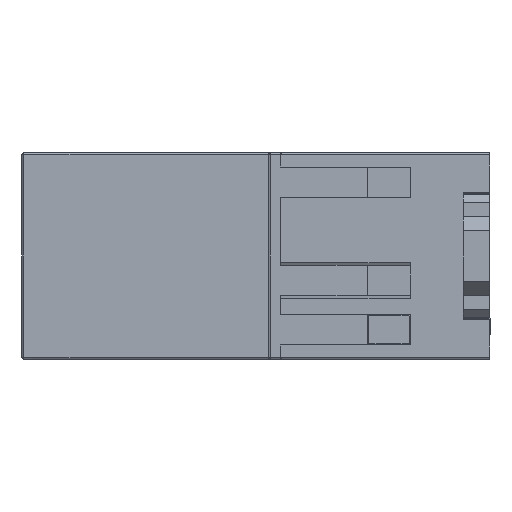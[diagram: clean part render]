
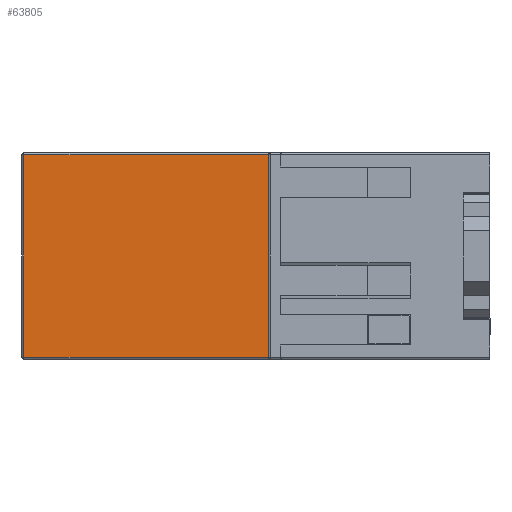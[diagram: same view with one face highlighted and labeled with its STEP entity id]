
A CAD part, left-side view. The second image highlights one B-rep face of the part: STEP entity #63805.
In plain terms, the highlighted planar face has unit normal (-1, 0, 0).
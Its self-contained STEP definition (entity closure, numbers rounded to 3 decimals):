
#236 = VERTEX_POINT ( 'NONE', #55453 ) ;
#824 = ORIENTED_EDGE ( 'NONE', *, *, #63373, .F. ) ;
#1528 = VERTEX_POINT ( 'NONE', #39609 ) ;
#1583 = DIRECTION ( 'NONE',  ( 0., 1., 0. ) ) ;
#1645 = CARTESIAN_POINT ( 'NONE',  ( -28.15, 64.471, 13.2 ) ) ;
#2405 = EDGE_CURVE ( 'NONE', #15722, #49231, #40723, .T. ) ;
#5317 = EDGE_CURVE ( 'NONE', #50097, #11340, #40833, .T. ) ;
#5808 = EDGE_CURVE ( 'NONE', #20569, #32461, #7523, .T. ) ;
#6234 = CARTESIAN_POINT ( 'NONE',  ( -28.15, 64.471, -13.2 ) ) ;
#7523 = LINE ( 'NONE', #24293, #33730 ) ;
#8137 = LINE ( 'NONE', #66205, #64059 ) ;
#8474 = AXIS2_PLACEMENT_3D ( 'NONE', #45935, #12471, #51564 ) ;
#9337 = VECTOR ( 'NONE', #63175, 1000. ) ;
#9400 = VERTEX_POINT ( 'NONE', #6234 ) ;
#9870 = EDGE_CURVE ( 'NONE', #11340, #9400, #8137, .T. ) ;
#11135 = CARTESIAN_POINT ( 'NONE',  ( -28.15, 25.821, 10.95 ) ) ;
#11340 = VERTEX_POINT ( 'NONE', #13310 ) ;
#11724 = CIRCLE ( 'NONE', #8474, 0.25 ) ;
#12471 = DIRECTION ( 'NONE',  ( 1., 0., 0. ) ) ;
#13310 = CARTESIAN_POINT ( 'NONE',  ( -28.15, 64.471, 13.2 ) ) ;
#15098 = ORIENTED_EDGE ( 'NONE', *, *, #39194, .F. ) ;
#15722 = VERTEX_POINT ( 'NONE', #32482 ) ;
#17427 = VECTOR ( 'NONE', #70993, 1000. ) ;
#17932 = LINE ( 'NONE', #55635, #45891 ) ;
#19818 = DIRECTION ( 'NONE',  ( 0., 0., -1. ) ) ;
#20569 = VERTEX_POINT ( 'NONE', #11135 ) ;
#21644 = LINE ( 'NONE', #58013, #49606 ) ;
#24293 = CARTESIAN_POINT ( 'NONE',  ( -28.15, 32.621, 10.95 ) ) ;
#24680 = LINE ( 'NONE', #47679, #50896 ) ;
#25560 = EDGE_CURVE ( 'NONE', #9400, #1528, #61992, .T. ) ;
#26132 = CARTESIAN_POINT ( 'NONE',  ( -28.15, 25.821, -13.2 ) ) ;
#26516 = DIRECTION ( 'NONE',  ( 1., 0., 0. ) ) ;
#32461 = VERTEX_POINT ( 'NONE', #41695 ) ;
#32482 = CARTESIAN_POINT ( 'NONE',  ( -28.15, 32.371, -10.95 ) ) ;
#32914 = FACE_OUTER_BOUND ( 'NONE', #67178, .T. ) ;
#33730 = VECTOR ( 'NONE', #41163, 1000. ) ;
#35060 = DIRECTION ( 'NONE',  ( 1., 0., 0. ) ) ;
#39194 = EDGE_CURVE ( 'NONE', #236, #1528, #24680, .T. ) ;
#39595 = CARTESIAN_POINT ( 'NONE',  ( -28.15, 32.621, -10.7 ) ) ;
#39609 = CARTESIAN_POINT ( 'NONE',  ( -28.15, 25.821, -13.2 ) ) ;
#40429 = PLANE ( 'NONE',  #51276 ) ;
#40723 = CIRCLE ( 'NONE', #69237, 0.25 ) ;
#40833 = LINE ( 'NONE', #1645, #9337 ) ;
#41163 = DIRECTION ( 'NONE',  ( 0., 1., 0. ) ) ;
#41695 = CARTESIAN_POINT ( 'NONE',  ( -28.15, 32.371, 10.95 ) ) ;
#42303 = VERTEX_POINT ( 'NONE', #45697 ) ;
#43465 = EDGE_CURVE ( 'NONE', #42303, #32461, #11724, .T. ) ;
#45697 = CARTESIAN_POINT ( 'NONE',  ( -28.15, 32.621, 10.7 ) ) ;
#45891 = VECTOR ( 'NONE', #61260, 1000. ) ;
#45935 = CARTESIAN_POINT ( 'NONE',  ( -28.15, 32.371, 10.7 ) ) ;
#47679 = CARTESIAN_POINT ( 'NONE',  ( -28.15, 25.821, -10.95 ) ) ;
#48535 = ORIENTED_EDGE ( 'NONE', *, *, #2405, .T. ) ;
#49231 = VERTEX_POINT ( 'NONE', #39595 ) ;
#49606 = VECTOR ( 'NONE', #63643, 1000. ) ;
#50097 = VERTEX_POINT ( 'NONE', #52899 ) ;
#50896 = VECTOR ( 'NONE', #19818, 1000. ) ;
#51276 = AXIS2_PLACEMENT_3D ( 'NONE', #68466, #35060, #1583 ) ;
#51564 = DIRECTION ( 'NONE',  ( 0., 1., 0. ) ) ;
#52899 = CARTESIAN_POINT ( 'NONE',  ( -28.15, 25.821, 13.2 ) ) ;
#53426 = VECTOR ( 'NONE', #64585, 1000. ) ;
#54701 = ORIENTED_EDGE ( 'NONE', *, *, #5317, .T. ) ;
#54989 = EDGE_CURVE ( 'NONE', #236, #15722, #68255, .T. ) ;
#55453 = CARTESIAN_POINT ( 'NONE',  ( -28.15, 25.821, -10.95 ) ) ;
#55635 = CARTESIAN_POINT ( 'NONE',  ( -28.15, 25.821, 10.95 ) ) ;
#58013 = CARTESIAN_POINT ( 'NONE',  ( -28.15, 32.621, 13.45 ) ) ;
#58384 = ORIENTED_EDGE ( 'NONE', *, *, #5808, .F. ) ;
#58974 = CARTESIAN_POINT ( 'NONE',  ( -28.15, 32.621, -10.95 ) ) ;
#59955 = CARTESIAN_POINT ( 'NONE',  ( -28.15, 32.371, -10.7 ) ) ;
#61260 = DIRECTION ( 'NONE',  ( 0., 0., 1. ) ) ;
#61992 = LINE ( 'NONE', #26132, #17427 ) ;
#63175 = DIRECTION ( 'NONE',  ( 0., 1., 0. ) ) ;
#63373 = EDGE_CURVE ( 'NONE', #42303, #49231, #21644, .T. ) ;
#63643 = DIRECTION ( 'NONE',  ( 0., 0., -1. ) ) ;
#63805 = ADVANCED_FACE ( 'NONE', ( #32914 ), #40429, .F. ) ;
#64059 = VECTOR ( 'NONE', #71796, 1000. ) ;
#64585 = DIRECTION ( 'NONE',  ( 0., 1., 0. ) ) ;
#65551 = ORIENTED_EDGE ( 'NONE', *, *, #69211, .T. ) ;
#65569 = DIRECTION ( 'NONE',  ( 0., 1., 0. ) ) ;
#66205 = CARTESIAN_POINT ( 'NONE',  ( -28.15, 64.471, 13.45 ) ) ;
#66314 = ORIENTED_EDGE ( 'NONE', *, *, #54989, .T. ) ;
#67178 = EDGE_LOOP ( 'NONE', ( #65551, #54701, #69050, #70163, #15098, #66314, #48535, #824, #72223, #58384 ) ) ;
#68255 = LINE ( 'NONE', #58974, #53426 ) ;
#68466 = CARTESIAN_POINT ( 'NONE',  ( -28.15, 64.721, 13.45 ) ) ;
#69050 = ORIENTED_EDGE ( 'NONE', *, *, #9870, .T. ) ;
#69211 = EDGE_CURVE ( 'NONE', #20569, #50097, #17932, .T. ) ;
#69237 = AXIS2_PLACEMENT_3D ( 'NONE', #59955, #26516, #65569 ) ;
#70163 = ORIENTED_EDGE ( 'NONE', *, *, #25560, .T. ) ;
#70993 = DIRECTION ( 'NONE',  ( 0., -1., 0. ) ) ;
#71796 = DIRECTION ( 'NONE',  ( 0., 0., -1. ) ) ;
#72223 = ORIENTED_EDGE ( 'NONE', *, *, #43465, .T. ) ;
